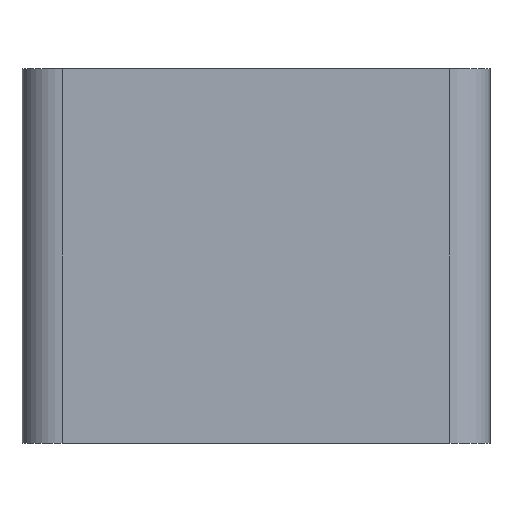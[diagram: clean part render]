
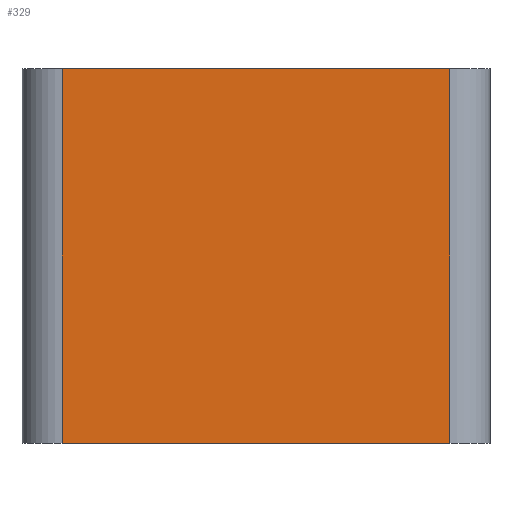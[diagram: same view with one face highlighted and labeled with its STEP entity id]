
A CAD part, front view. The second image highlights one B-rep face of the part: STEP entity #329.
In plain terms, the highlighted planar face has unit normal (0, -1, 0).
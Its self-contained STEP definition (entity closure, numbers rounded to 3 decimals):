
#182=FACE_OUTER_BOUND('',#1090,.T.);
#329=ADVANCED_FACE('',(#182),#501,.T.);
#501=PLANE('',#3120);
#613=LINE('',#4520,#764);
#617=LINE('',#4553,#768);
#618=LINE('',#4556,#769);
#619=LINE('',#4557,#770);
#764=VECTOR('',#3325,1.);
#768=VECTOR('',#3359,1.);
#769=VECTOR('',#3360,1.);
#770=VECTOR('',#3361,1.);
#1090=EDGE_LOOP('',(#1410,#1411,#1412,#1413));
#1410=ORIENTED_EDGE('',*,*,#2550,.T.);
#1411=ORIENTED_EDGE('',*,*,#2551,.T.);
#1412=ORIENTED_EDGE('',*,*,#2535,.T.);
#1413=ORIENTED_EDGE('',*,*,#2552,.T.);
#2245=VERTEX_POINT('',#4519);
#2246=VERTEX_POINT('',#4521);
#2260=VERTEX_POINT('',#4554);
#2261=VERTEX_POINT('',#4555);
#2535=EDGE_CURVE('',#2246,#2245,#613,.T.);
#2550=EDGE_CURVE('',#2260,#2261,#617,.T.);
#2551=EDGE_CURVE('',#2261,#2246,#618,.T.);
#2552=EDGE_CURVE('',#2245,#2260,#619,.T.);
#3120=AXIS2_PLACEMENT_3D('',#4558,#3362,#3363);
#3325=DIRECTION('',(-1.,0.,0.));
#3359=DIRECTION('',(1.,0.,0.));
#3360=DIRECTION('',(0.,0.,1.));
#3361=DIRECTION('',(0.,0.,-1.));
#3362=DIRECTION('',(0.,-1.,0.));
#3363=DIRECTION('',(0.,0.,-1.));
#4519=CARTESIAN_POINT('',(3.,0.,28.));
#4520=CARTESIAN_POINT('',(17.5,0.,28.));
#4521=CARTESIAN_POINT('',(32.,0.,28.));
#4553=CARTESIAN_POINT('',(17.5,0.,0.));
#4554=CARTESIAN_POINT('',(3.,0.,0.));
#4555=CARTESIAN_POINT('',(32.,0.,0.));
#4556=CARTESIAN_POINT('',(32.,0.,0.));
#4557=CARTESIAN_POINT('',(3.,0.,0.));
#4558=CARTESIAN_POINT('',(17.5,0.,0.));
